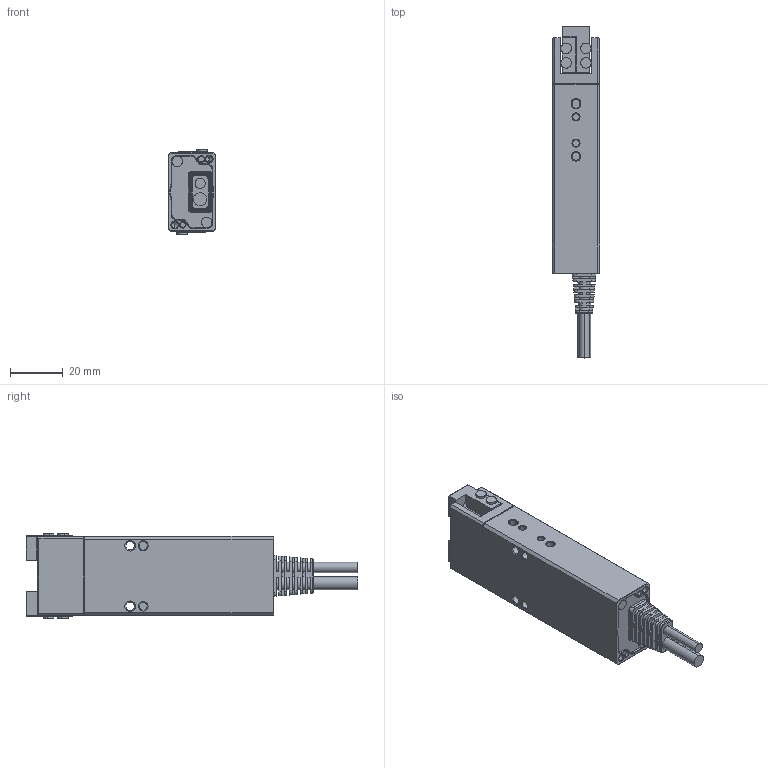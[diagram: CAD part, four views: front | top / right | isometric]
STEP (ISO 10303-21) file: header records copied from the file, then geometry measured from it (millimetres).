
FILE_DESCRIPTION (( 'STEP AP214' ), '1' );
FILE_NAME ('PGEA-【2-10】【15-10】-O-B_简易模型_20250624.STEP', '2025-06-24T09:18:23', ( '' ), ( '' ), 'SwSTEP 2.0', 'SolidWorks 2020', '' );
FILE_SCHEMA (( 'AUTOMOTIVE_DESIGN' ));
Length unit declared in the file: millimetre
Products named in the file (11): 复件 复件 M2薄头螺丝-3-4头-0.8厚^复件 ______1; 葩璃 葩璃 PGEA-15-10U璃^葩璃 ______1; 复件 (2) 复件 M2薄头螺丝-3-4头-0.8厚^复件 ______1; 复件 复件 PGEA-15-10底出底盖^复件 ______1; 复件 复件 15S双线网尾^复件 ______1; 葩璃 ______1; PGEA-【2-10】【15-10】-O-B_简易模型_20250624; 复件 _____________0^PGEA-【2-10】【15-10】-O-B_简易模型_20250331; 葩璃 葩璃 PGEA-15-10價釱; 复件 复件 PGEA-15-10底出外壳^复件 ______1; 复件 M2薄头螺丝-3-4头-0.8厚^复件 _____________0_PGEA-【2-10】【15-10】-O-B_简易模型_20250331
Assembly tree (14 placements, depth 3):
  PGEA-【2-10】【15-10】-O-B_简易模型_20250624
    葩璃 ______1
      葩璃 葩璃 PGEA-15-10U璃^葩璃 ______1
      复件 复件 15S双线网尾^复件 ______1
      复件 复件 PGEA-15-10底出底盖^复件 ______1
      复件 复件 PGEA-15-10底出外壳^复件 ______1
      复件 复件 M2薄头螺丝-3-4头-0.8厚^复件 ______1
      复件 (2) 复件 M2薄头螺丝-3-4头-0.8厚^复件 ______1
    复件 _____________0^PGEA-【2-10】【15-10】-O-B_简易模型_20250331  x2
      葩璃 葩璃 PGEA-15-10價釱
      复件 M2薄头螺丝-3-4头-0.8厚^复件 _____________0_PGEA-【2-10】【15-10】-O-B_简易模型_20250331
Bounding box: 18 x 126 x 32 mm (x, y, z)
Volume: 48359.1 mm3; surface area: 18841.9 mm2
Topology: 16 solids, 16 shells, 656 faces, 1579 edges, 984 vertices
Faces by surface type: plane 314, cylinder 229, cone 97, bspline 16
Entity records: 17361 total; most frequent: CARTESIAN_POINT 3384, DIRECTION 2807, ORIENTED_EDGE 2762, EDGE_CURVE 1381, AXIS2_PLACEMENT_3D 967, LINE 873, VECTOR 873, VERTEX_POINT 868
